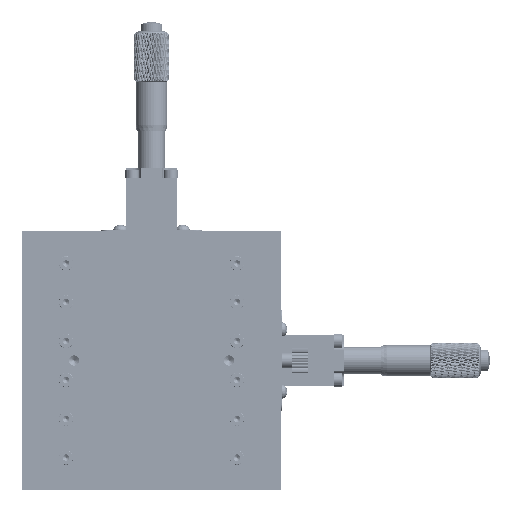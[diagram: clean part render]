
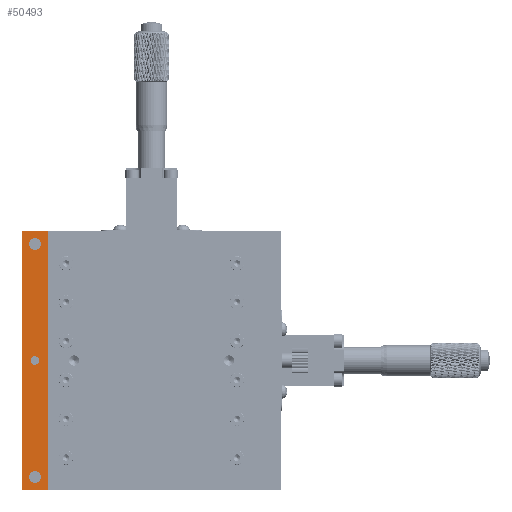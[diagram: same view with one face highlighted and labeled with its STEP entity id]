
A CAD part, front view. The second image highlights one B-rep face of the part: STEP entity #50493.
In plain terms, the highlighted planar face has unit normal (0, -1, 0).
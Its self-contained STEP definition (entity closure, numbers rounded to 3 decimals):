
#399 = DIRECTION ( 'NONE',  ( 1., 0., 0. ) ) ;
#604 = EDGE_CURVE ( 'NONE', #72656, #25343, #85729, .T. ) ;
#1325 = CARTESIAN_POINT ( 'NONE',  ( -40., 0., 50. ) ) ;
#1518 = EDGE_CURVE ( 'NONE', #6960, #84547, #59026, .T. ) ;
#1797 = AXIS2_PLACEMENT_3D ( 'NONE', #63880, #23006, #70686 ) ;
#3488 = DIRECTION ( 'NONE',  ( 0., 0., 1. ) ) ;
#4528 = VECTOR ( 'NONE', #69344, 1000. ) ;
#4634 = CARTESIAN_POINT ( 'NONE',  ( -50., 0., 50. ) ) ;
#4669 = DIRECTION ( 'NONE',  ( 0., 1., 0. ) ) ;
#5310 = FACE_BOUND ( 'NONE', #83774, .T. ) ;
#5515 = CARTESIAN_POINT ( 'NONE',  ( -45., 0., 47.25 ) ) ;
#5952 = CARTESIAN_POINT ( 'NONE',  ( -45., 0., -45. ) ) ;
#6414 = VERTEX_POINT ( 'NONE', #17579 ) ;
#6925 = EDGE_CURVE ( 'NONE', #72183, #6960, #76461, .T. ) ;
#6960 = VERTEX_POINT ( 'NONE', #48508 ) ;
#7154 = ORIENTED_EDGE ( 'NONE', *, *, #604, .T. ) ;
#10034 = EDGE_LOOP ( 'NONE', ( #49886, #66092 ) ) ;
#11140 = CARTESIAN_POINT ( 'NONE',  ( -50., 0., 50. ) ) ;
#11347 = VERTEX_POINT ( 'NONE', #5515 ) ;
#12471 = DIRECTION ( 'NONE',  ( 0., 1., 0. ) ) ;
#12804 = DIRECTION ( 'NONE',  ( 0., 0., 1. ) ) ;
#13296 = CARTESIAN_POINT ( 'NONE',  ( -50., 0., 50. ) ) ;
#13729 = ORIENTED_EDGE ( 'NONE', *, *, #37964, .T. ) ;
#14007 = CARTESIAN_POINT ( 'NONE',  ( -45., 0., -42.75 ) ) ;
#16847 = CARTESIAN_POINT ( 'NONE',  ( -50., 0., -50. ) ) ;
#17039 = LINE ( 'NONE', #16847, #51218 ) ;
#17495 = VERTEX_POINT ( 'NONE', #76933 ) ;
#17579 = CARTESIAN_POINT ( 'NONE',  ( -50., 0., -50. ) ) ;
#18011 = DIRECTION ( 'NONE',  ( -1., 0., 0. ) ) ;
#20324 = AXIS2_PLACEMENT_3D ( 'NONE', #45574, #4669, #52425 ) ;
#23006 = DIRECTION ( 'NONE',  ( 0., 1., 0. ) ) ;
#25303 = CIRCLE ( 'NONE', #64564, 2.25 ) ;
#25331 = EDGE_CURVE ( 'NONE', #83029, #11347, #26275, .T. ) ;
#25343 = VERTEX_POINT ( 'NONE', #36441 ) ;
#26275 = CIRCLE ( 'NONE', #1797, 2.25 ) ;
#26359 = CARTESIAN_POINT ( 'NONE',  ( -45., 0., 45. ) ) ;
#27653 = ORIENTED_EDGE ( 'NONE', *, *, #6925, .F. ) ;
#28189 = CIRCLE ( 'NONE', #43665, 2.25 ) ;
#28810 = CIRCLE ( 'NONE', #20324, 1.65 ) ;
#30198 = ORIENTED_EDGE ( 'NONE', *, *, #25331, .T. ) ;
#32776 = EDGE_CURVE ( 'NONE', #25343, #72656, #28810, .T. ) ;
#33225 = DIRECTION ( 'NONE',  ( 0., 0., 1. ) ) ;
#36397 = VECTOR ( 'NONE', #45547, 1000. ) ;
#36441 = CARTESIAN_POINT ( 'NONE',  ( -45., 0., -1.65 ) ) ;
#37964 = EDGE_CURVE ( 'NONE', #72183, #6414, #70500, .T. ) ;
#38042 = DIRECTION ( 'NONE',  ( 0., 1., 0. ) ) ;
#38257 = AXIS2_PLACEMENT_3D ( 'NONE', #11140, #38042, #18011 ) ;
#39110 = EDGE_CURVE ( 'NONE', #6414, #84547, #17039, .T. ) ;
#41642 = FACE_OUTER_BOUND ( 'NONE', #53825, .T. ) ;
#43665 = AXIS2_PLACEMENT_3D ( 'NONE', #5952, #53722, #12804 ) ;
#44419 = DIRECTION ( 'NONE',  ( 0., 1., 0. ) ) ;
#45547 = DIRECTION ( 'NONE',  ( 0., 0., -1. ) ) ;
#45574 = CARTESIAN_POINT ( 'NONE',  ( -45., 0., 0. ) ) ;
#45987 = ORIENTED_EDGE ( 'NONE', *, *, #1518, .F. ) ;
#48508 = CARTESIAN_POINT ( 'NONE',  ( -40., 0., 50. ) ) ;
#49886 = ORIENTED_EDGE ( 'NONE', *, *, #70005, .T. ) ;
#50493 = ADVANCED_FACE ( 'NONE', ( #5310, #57661, #75695, #41642 ), #52017, .F. ) ;
#51218 = VECTOR ( 'NONE', #84811, 1000. ) ;
#52017 = PLANE ( 'NONE',  #38257 ) ;
#52425 = DIRECTION ( 'NONE',  ( 0., 0., 1. ) ) ;
#53384 = CARTESIAN_POINT ( 'NONE',  ( -45., 0., 0. ) ) ;
#53722 = DIRECTION ( 'NONE',  ( 0., 1., 0. ) ) ;
#53825 = EDGE_LOOP ( 'NONE', ( #77647, #45987, #27653, #13729 ) ) ;
#54230 = AXIS2_PLACEMENT_3D ( 'NONE', #53384, #12471, #60266 ) ;
#57661 = FACE_BOUND ( 'NONE', #10034, .T. ) ;
#58429 = VECTOR ( 'NONE', #399, 1000. ) ;
#59026 = LINE ( 'NONE', #1325, #4528 ) ;
#59760 = CARTESIAN_POINT ( 'NONE',  ( -50., 0., 50. ) ) ;
#59948 = ORIENTED_EDGE ( 'NONE', *, *, #32776, .T. ) ;
#60266 = DIRECTION ( 'NONE',  ( 0., 0., 1. ) ) ;
#61489 = ORIENTED_EDGE ( 'NONE', *, *, #75306, .T. ) ;
#63880 = CARTESIAN_POINT ( 'NONE',  ( -45., 0., 45. ) ) ;
#64564 = AXIS2_PLACEMENT_3D ( 'NONE', #85205, #44419, #3488 ) ;
#66092 = ORIENTED_EDGE ( 'NONE', *, *, #80024, .T. ) ;
#69344 = DIRECTION ( 'NONE',  ( 0., 0., -1. ) ) ;
#70005 = EDGE_CURVE ( 'NONE', #87272, #17495, #28189, .T. ) ;
#70500 = LINE ( 'NONE', #4634, #36397 ) ;
#70686 = DIRECTION ( 'NONE',  ( 0., 0., 1. ) ) ;
#72183 = VERTEX_POINT ( 'NONE', #59760 ) ;
#72656 = VERTEX_POINT ( 'NONE', #83107 ) ;
#74017 = DIRECTION ( 'NONE',  ( 0., 1., 0. ) ) ;
#74880 = CIRCLE ( 'NONE', #81234, 2.25 ) ;
#75306 = EDGE_CURVE ( 'NONE', #11347, #83029, #74880, .T. ) ;
#75467 = CARTESIAN_POINT ( 'NONE',  ( -40., 0., -50. ) ) ;
#75695 = FACE_BOUND ( 'NONE', #84896, .T. ) ;
#76461 = LINE ( 'NONE', #13296, #58429 ) ;
#76933 = CARTESIAN_POINT ( 'NONE',  ( -45., 0., -47.25 ) ) ;
#77647 = ORIENTED_EDGE ( 'NONE', *, *, #39110, .T. ) ;
#80024 = EDGE_CURVE ( 'NONE', #17495, #87272, #25303, .T. ) ;
#81234 = AXIS2_PLACEMENT_3D ( 'NONE', #26359, #74017, #33225 ) ;
#83029 = VERTEX_POINT ( 'NONE', #85122 ) ;
#83107 = CARTESIAN_POINT ( 'NONE',  ( -45., 0., 1.65 ) ) ;
#83774 = EDGE_LOOP ( 'NONE', ( #7154, #59948 ) ) ;
#84547 = VERTEX_POINT ( 'NONE', #75467 ) ;
#84811 = DIRECTION ( 'NONE',  ( 1., 0., 0. ) ) ;
#84896 = EDGE_LOOP ( 'NONE', ( #61489, #30198 ) ) ;
#85122 = CARTESIAN_POINT ( 'NONE',  ( -45., 0., 42.75 ) ) ;
#85205 = CARTESIAN_POINT ( 'NONE',  ( -45., 0., -45. ) ) ;
#85729 = CIRCLE ( 'NONE', #54230, 1.65 ) ;
#87272 = VERTEX_POINT ( 'NONE', #14007 ) ;
